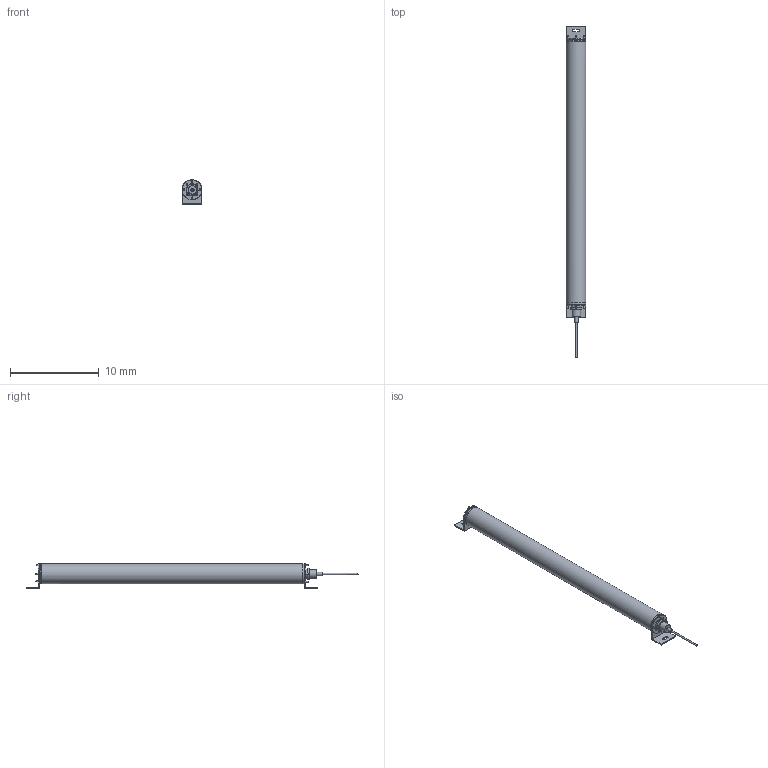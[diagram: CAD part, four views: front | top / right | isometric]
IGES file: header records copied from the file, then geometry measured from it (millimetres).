
Start section:  Autodesk DirectConnect version 7.0.27.0 ---- IGES version 5.3
Global section: file name: C:\ACADFILES\MG_PYLONS\CUSTOMER_FILES\MG-28-PYLON_3D_SMB_PT.iges; native system: Autodesk DirectConnect 7.0.27.0; preprocessor: 7.0.27.0; author: ENGINEERMAIN; organization: Unknown; date: 20150810.133529; units: millimetre
Bounding box: 2.26 x 37.44 x 2.75 mm (x, y, z)
Surface area: 903.5 mm2 (no closed solid volume)
Topology: 0 solids, 0 shells, 784 faces, 4052 edges, 4055 vertices
Faces by surface type: bspline 784
